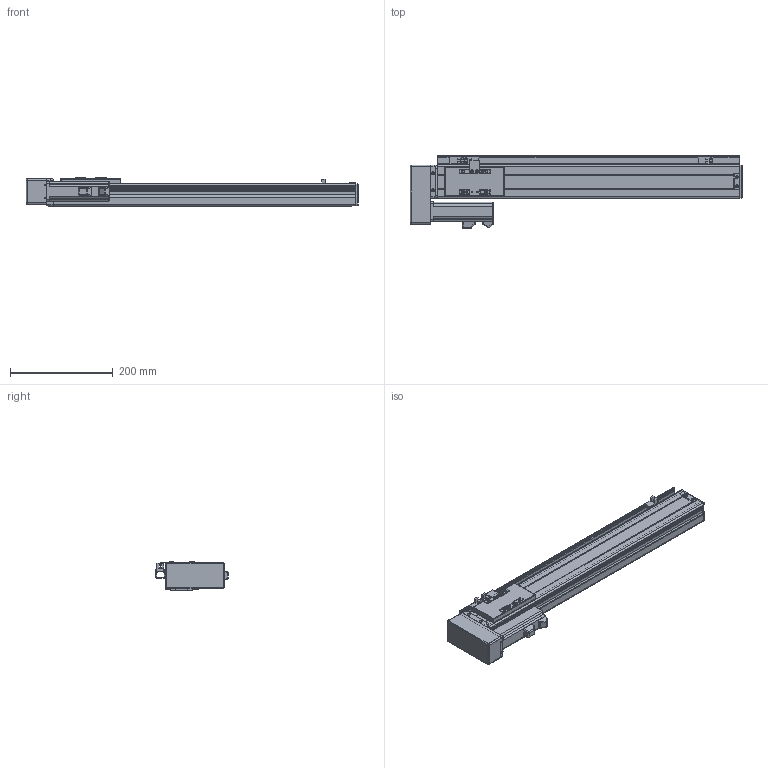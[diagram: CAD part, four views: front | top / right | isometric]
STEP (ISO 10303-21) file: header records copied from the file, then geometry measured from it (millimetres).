
FILE_DESCRIPTION (( 'STEP AP203' ), '1' );
FILE_NAME ('VT6-S440-BL.STEP', '2016-06-17T09:49:36', ( '' ), ( '' ), 'SwSTEP 2.0', 'SolidWorks 2013', '' );
FILE_SCHEMA (( 'CONFIG_CONTROL_DESIGN' ));
Length unit declared in the file: millimetre
Products named in the file (17): T6-BMRL肮祭湍謫欶; T6-覜茼え; T6-BRL萇儂假蚾啣; T6-綴傷裔; 侂狟100W MSMD012G1V; EE-XS674; VT6-S440-BL; ET6-BLRM絳寢_俴最440; ET6-BC耜啣_440; ET6-BLRM滅鳥湍_440; ET6-BC癹弇羲壽羞_440; ET6-BLRM佪裝_440; T6-賑雄殤; T6-BMLRヶ傷裔; T6-裔啣; T6-BMRLヶ傷裔揤啣; T6-揤輸
Assembly tree (19 placements, depth 2):
  VT6-S440-BL
    ET6-BC耜啣_440  x2
    ET6-BC癹弇羲壽羞_440
    T6-賑雄殤
    T6-裔啣
    T6-揤輸
    T6-覜茼え
    T6-綴傷裔
    EE-XS674  x3
    ET6-BLRM絳寢_俴最440
    ET6-BLRM滅鳥湍_440
    ET6-BLRM佪裝_440
    T6-BMLRヶ傷裔
    T6-BMRLヶ傷裔揤啣
    T6-BMRL肮祭湍謫欶
    T6-BRL萇儂假蚾啣
    侂狟100W MSMD012G1V
Bounding box: 647 x 141 x 56 mm (x, y, z)
Volume: 851265.4 mm3; surface area: 510394.4 mm2
Topology: 19 solids, 19 shells, 901 faces, 2388 edges, 1512 vertices
Faces by surface type: cylinder 427, plane 374, cone 46, torus 36, sphere 18
Entity records: 27841 total; most frequent: CARTESIAN_POINT 4681, DIRECTION 4658, ORIENTED_EDGE 4294, EDGE_CURVE 2147, AXIS2_PLACEMENT_3D 1709, VERTEX_POINT 1372, VECTOR 1240, LINE 1240
